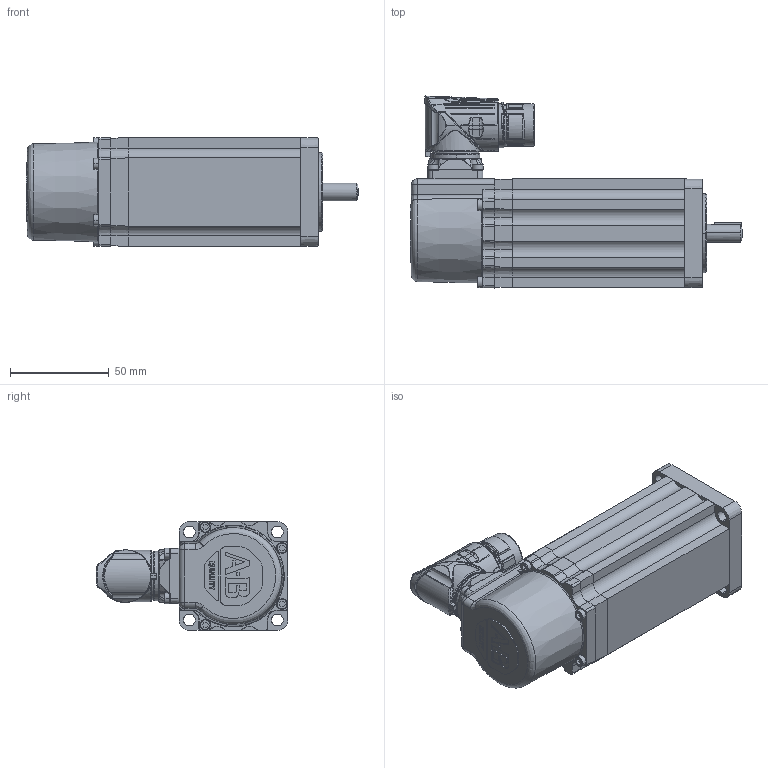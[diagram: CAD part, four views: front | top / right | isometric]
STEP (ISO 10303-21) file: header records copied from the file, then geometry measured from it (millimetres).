
FILE_DESCRIPTION (( 'STEP AP214' ), '1' );
FILE_NAME ('Rockwell Automation-$PARTNUMBER.STEP', '2014-07-25T13:31:47', ( 'Windows User' ), ( '' ), 'SwSTEP 2.0', 'SolidWorks 2014', '' );
FILE_SCHEMA (( 'AUTOMOTIVE_DESIGN' ));
Length unit declared in the file: inch
Products named in the file (25): Rockwell Automation-$PARTNUMBER_Rockwell Automation-VPF-x0632x-xJx2xx_ASM0007_ASM; Rockwell Automation-$PARTNUMBER_Rockwell Automation-VPF-x0632x-xJx2xx_ASM0009_ASM; Rockwell Automation-$PARTNUMBER; Rockwell Automation-$PARTNUMBER_Rockwell Automation-VPF-x0632x-xJx2xx_PRT0019; Rockwell Automation-$PARTNUMBER_Rockwell Automation-VPF-x0632x-xJx2xx_PRT0018; Rockwell Automation-$PARTNUMBER_Rockwell Automation-VPF-x0632x-xJx2xx_PRT0015; Rockwell Automation-$PARTNUMBER_Rockwell Automation-VPF-x0632x-xJx2xx_ASM0002_ASM; Rockwell Automation-$PARTNUMBER_Rockwell Automation-VPF-x0632x-xJx2xx_ASM0005_ASM; Rockwell Automation-$PARTNUMBER_Rockwell Automation-VPF-x0632x-xJx2xx_PRT0011; Rockwell Automation-$PARTNUMBER_Rockwell Automation-VPF-x0632x-xJx2xx_PRT0010; Rockwell Automation-$PARTNUMBER_Rockwell Automation-VPF-x0632x-xJx2xx_ASM0003_ASM; Rockwell Automation-$PARTNUMBER_Rockwell Automation-VPF-x0632x-xJx2xx_ASM0004_ASM; Rockwell Automation-$PARTNUMBER_Rockwell Automation-VPF-x0632x-xJx2xx_PRT0008_1; Rockwell Automation-$PARTNUMBER_Rockwell Automation-VPF-x0632x-xJx2xx_PRT0005; Rockwell Automation-$PARTNUMBER_Rockwell Automation-VPF-x0632x-xJx2xx_PRT0007; Rockwell Automation-$PARTNUMBER_Rockwell Automation-VPF-x0632x-xJx2xx_PRT0008; Rockwell Automation-$PARTNUMBER_Rockwell Automation-VPF-x0632x-xJx2xx_PRT0006; Rockwell Automation-$PARTNUMBER_Rockwell Automation-VPF-x0632x-xJx2xx_vpf-063_asm_0632-k; Rockwell Automation-$PARTNUMBER_Rockwell Automation-VPF-x0632x-xJx2xx_PRT0004; Rockwell Automation-$PARTNUMBER_Rockwell Automation-VPF-x0632x-xJx2xx_PRT0017; Rockwell Automation-$PARTNUMBER_Rockwell Automation-VPF-x0632x-xJx2xx_PRT0003; Rockwell Automation-$PARTNUMBER_Rockwell Automation-VPF-x0632x-xJx2xx_PRT0016_Shaft_2_2; Rockwell Automation-$PARTNUMBER_Rockwell Automation-VPF-x0632x-xJx2xx_PRT0002; Rockwell Automation-$PARTNUMBER_Rockwell Automation-VPF-x0632x-xJx2xx_ASM0006_ASM; Rockwell Automation-$PARTNUMBER_Rockwell Automation-VPF-x0632x-xJx2xx_Part21_0632-K
Assembly tree (38 placements, depth 6):
  Rockwell Automation-$PARTNUMBER
    Rockwell Automation-$PARTNUMBER_Rockwell Automation-VPF-x0632x-xJx2xx_vpf-063_asm_0632-k
      Rockwell Automation-$PARTNUMBER_Rockwell Automation-VPF-x0632x-xJx2xx_Part21_0632-K
      Rockwell Automation-$PARTNUMBER_Rockwell Automation-VPF-x0632x-xJx2xx_ASM0002_ASM
        Rockwell Automation-$PARTNUMBER_Rockwell Automation-VPF-x0632x-xJx2xx_PRT0002  x4
        Rockwell Automation-$PARTNUMBER_Rockwell Automation-VPF-x0632x-xJx2xx_PRT0003  x4
        Rockwell Automation-$PARTNUMBER_Rockwell Automation-VPF-x0632x-xJx2xx_PRT0004  x2
        Rockwell Automation-$PARTNUMBER_Rockwell Automation-VPF-x0632x-xJx2xx_ASM0003_ASM
          Rockwell Automation-$PARTNUMBER_Rockwell Automation-VPF-x0632x-xJx2xx_PRT0006
          Rockwell Automation-$PARTNUMBER_Rockwell Automation-VPF-x0632x-xJx2xx_ASM0004_ASM
            Rockwell Automation-$PARTNUMBER_Rockwell Automation-VPF-x0632x-xJx2xx_PRT0008
            Rockwell Automation-$PARTNUMBER_Rockwell Automation-VPF-x0632x-xJx2xx_PRT0007
            Rockwell Automation-$PARTNUMBER_Rockwell Automation-VPF-x0632x-xJx2xx_PRT0005  x4
            Rockwell Automation-$PARTNUMBER_Rockwell Automation-VPF-x0632x-xJx2xx_PRT0008_1
        Rockwell Automation-$PARTNUMBER_Rockwell Automation-VPF-x0632x-xJx2xx_ASM0005_ASM
          Rockwell Automation-$PARTNUMBER_Rockwell Automation-VPF-x0632x-xJx2xx_PRT0010
          Rockwell Automation-$PARTNUMBER_Rockwell Automation-VPF-x0632x-xJx2xx_PRT0011  x2
      Rockwell Automation-$PARTNUMBER_Rockwell Automation-VPF-x0632x-xJx2xx_ASM0006_ASM
        Rockwell Automation-$PARTNUMBER_Rockwell Automation-VPF-x0632x-xJx2xx_ASM0007_ASM
          Rockwell Automation-$PARTNUMBER_Rockwell Automation-VPF-x0632x-xJx2xx_PRT0015  x4
          Rockwell Automation-$PARTNUMBER_Rockwell Automation-VPF-x0632x-xJx2xx_PRT0018
          Rockwell Automation-$PARTNUMBER_Rockwell Automation-VPF-x0632x-xJx2xx_ASM0009_ASM
            Rockwell Automation-$PARTNUMBER_Rockwell Automation-VPF-x0632x-xJx2xx_PRT0019
      Rockwell Automation-$PARTNUMBER_Rockwell Automation-VPF-x0632x-xJx2xx_PRT0016_Shaft_2_2
      Rockwell Automation-$PARTNUMBER_Rockwell Automation-VPF-x0632x-xJx2xx_PRT0017
Bounding box: 168.1 x 97.19 x 55.31 mm (x, y, z)
Volume: 129328.7 mm3; surface area: 128173.5 mm2
Topology: 24 solids, 42 shells, 2913 faces, 7987 edges, 5159 vertices
Faces by surface type: cylinder 975, plane 879, bspline 617, cone 428, torus 14
Entity records: 136629 total; most frequent: CARTESIAN_POINT 70028, ORIENTED_EDGE 12559, DIRECTION 7844, EDGE_CURVE 6294, VERTEX_POINT 4144, B_SPLINE_CURVE_WITH_KNOTS 3013, AXIS2_PLACEMENT_3D 2939, EDGE_LOOP 2434
